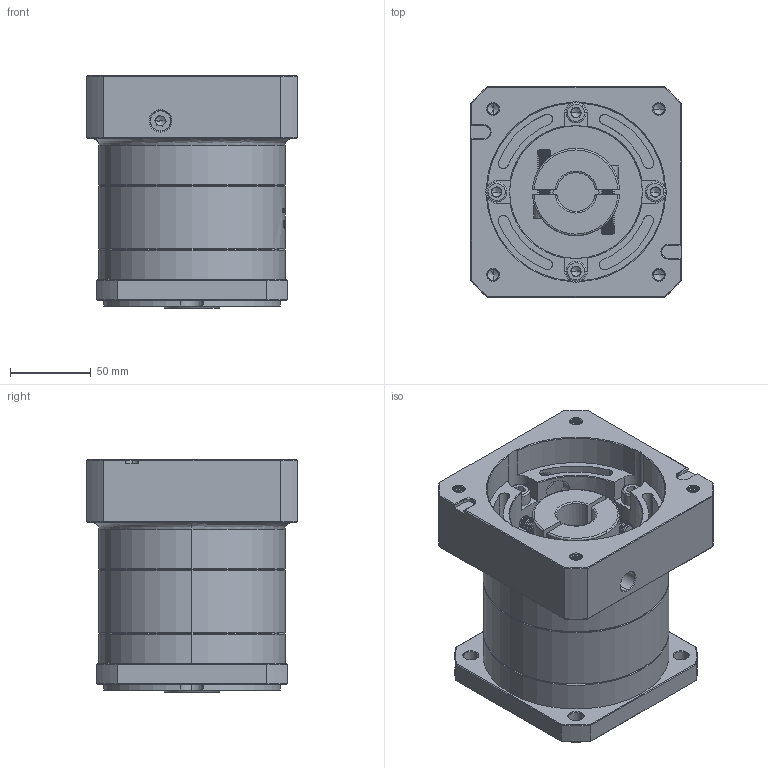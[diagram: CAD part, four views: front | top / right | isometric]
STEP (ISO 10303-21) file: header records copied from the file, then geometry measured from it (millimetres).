
FILE_DESCRIPTION (( 'STEP AP214' ), '1' );
FILE_NAME ('ZF120A-K25-L1-24-110-145-M8.step', '2023-03-07T09:37:04', ( '' ), ( '' ), 'SwSTEP 2.0', 'SolidWorks 2016', '' );
FILE_SCHEMA (( 'AUTOMOTIVE_DESIGN' ));
Length unit declared in the file: millimetre
Products named in the file (1): ZF120A-K25-L1-24-110-145-M8
Bounding box: 130 x 130 x 144 mm (x, y, z)
Volume: 1409929.3 mm3; surface area: 179570.6 mm2
Topology: 6 solids, 6 shells, 1947 faces, 5126 edges, 3271 vertices
Faces by surface type: plane 876, cylinder 416, cone 321, bspline 314, torus 20
Entity records: 104916 total; most frequent: CARTESIAN_POINT 38999, ORIENTED_EDGE 10196, DIRECTION 7973, EDGE_CURVE 5098, VERTEX_POINT 3271, VECTOR 2771, LINE 2771, AXIS2_PLACEMENT_3D 2601
